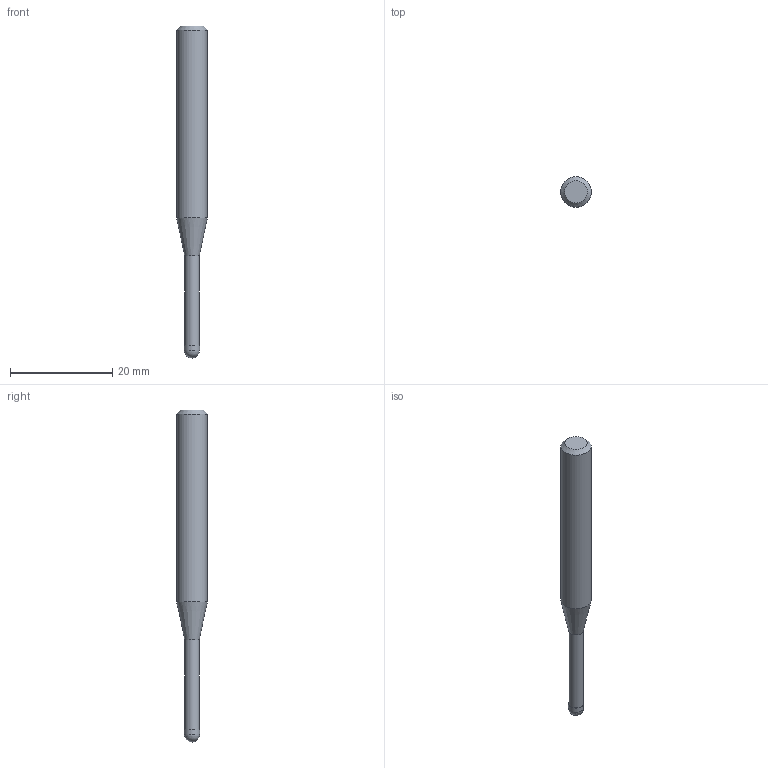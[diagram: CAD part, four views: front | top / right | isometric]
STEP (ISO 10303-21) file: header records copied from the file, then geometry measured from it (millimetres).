
FILE_DESCRIPTION((''),'2;1');
FILE_NAME('C:\Users\nsx150\AppData\Local\Temp\Mastercam 2021\3SYKECWX22\TEMP.step','2021-04-22T10:04:59',(''),(''),'STEP Write','Mastercam 2021 ... CNC Software, Inc.','');
FILE_SCHEMA(('AUTOMOTIVE_DESIGN'));
Length unit declared in the file: millimetre
Products named in the file (1): None
Bounding box: 6 x 6 x 65 mm (x, y, z)
Volume: 1301.9 mm3; surface area: 1026.2 mm2
Topology: 2 solids, 2 shells, 9 faces, 14 edges, 8 vertices
Faces by surface type: plane 3, cylinder 3, cone 2, sphere 1
Full cylindrical faces by diameter (mm): 2.85 x1, 3 x1, 6 x1
Entity records: 211 total; most frequent: DIRECTION 36, CARTESIAN_POINT 25, AXIS2_PLACEMENT_3D 18, ORIENTED_EDGE 14, EDGE_LOOP 14, STYLED_ITEM 12, ADVANCED_FACE 9, FACE_BOUND 8
